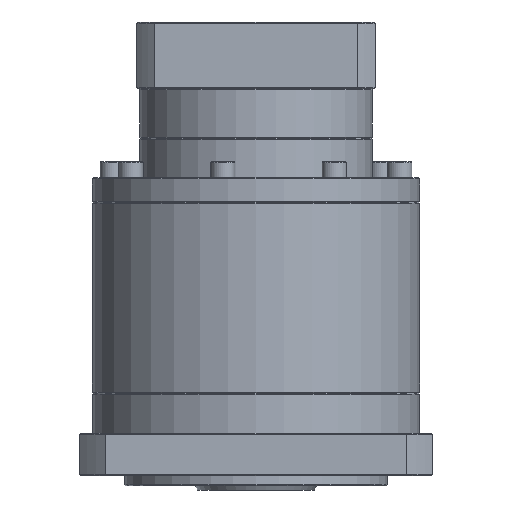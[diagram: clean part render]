
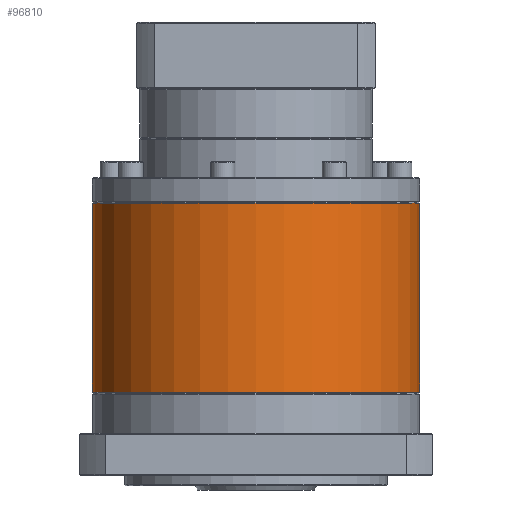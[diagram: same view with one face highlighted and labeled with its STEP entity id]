
A CAD part, front view. The second image highlights one B-rep face of the part: STEP entity #96810.
In plain terms, the highlighted cylindrical face has radius 81 mm (diameter 162 mm), a partial arc.
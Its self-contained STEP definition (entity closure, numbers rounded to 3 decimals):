
#3327 = AXIS2_PLACEMENT_3D ( 'NONE', #63881, #9429, #80364 ) ;
#3477 = DIRECTION ( 'NONE',  ( 0., 0., -1. ) ) ;
#5005 = CIRCLE ( 'NONE', #36801, 81. ) ;
#6527 = AXIS2_PLACEMENT_3D ( 'NONE', #18082, #33921, #10328 ) ;
#9429 = DIRECTION ( 'NONE',  ( 0., 0., 1. ) ) ;
#9594 = CARTESIAN_POINT ( 'NONE',  ( 119.161, 0., 60.3 ) ) ;
#10205 = EDGE_CURVE ( 'NONE', #100083, #48879, #90360, .T. ) ;
#10328 = DIRECTION ( 'NONE',  ( -1., 0., 0. ) ) ;
#12600 = DIRECTION ( 'NONE',  ( 0., 0., -1. ) ) ;
#13323 = EDGE_CURVE ( 'NONE', #27447, #48879, #83431, .T. ) ;
#14468 = LINE ( 'NONE', #51909, #60412 ) ;
#16548 = ORIENTED_EDGE ( 'NONE', *, *, #18589, .T. ) ;
#18082 = CARTESIAN_POINT ( 'NONE',  ( 38.161, 0., 60.3 ) ) ;
#18589 = EDGE_CURVE ( 'NONE', #27447, #54226, #5005, .T. ) ;
#26977 = ORIENTED_EDGE ( 'NONE', *, *, #13323, .F. ) ;
#27447 = VERTEX_POINT ( 'NONE', #79223 ) ;
#33050 = ORIENTED_EDGE ( 'NONE', *, *, #44505, .T. ) ;
#33921 = DIRECTION ( 'NONE',  ( 0., 0., -1. ) ) ;
#36801 = AXIS2_PLACEMENT_3D ( 'NONE', #98783, #12600, #67426 ) ;
#37287 = CARTESIAN_POINT ( 'NONE',  ( -42.839, 0., -33.7 ) ) ;
#42260 = VECTOR ( 'NONE', #3477, 1000. ) ;
#44505 = EDGE_CURVE ( 'NONE', #54226, #100083, #14468, .T. ) ;
#48879 = VERTEX_POINT ( 'NONE', #55103 ) ;
#51909 = CARTESIAN_POINT ( 'NONE',  ( -42.839, 0., 60.3 ) ) ;
#54226 = VERTEX_POINT ( 'NONE', #61154 ) ;
#55103 = CARTESIAN_POINT ( 'NONE',  ( 119.161, 0., -33.7 ) ) ;
#57610 = ORIENTED_EDGE ( 'NONE', *, *, #10205, .T. ) ;
#60412 = VECTOR ( 'NONE', #99525, 1000. ) ;
#61154 = CARTESIAN_POINT ( 'NONE',  ( -42.839, 0., 59.8 ) ) ;
#63881 = CARTESIAN_POINT ( 'NONE',  ( 38.161, 0., -33.7 ) ) ;
#67426 = DIRECTION ( 'NONE',  ( -1., 0., 0. ) ) ;
#72207 = EDGE_LOOP ( 'NONE', ( #26977, #16548, #33050, #57610 ) ) ;
#73912 = FACE_OUTER_BOUND ( 'NONE', #72207, .T. ) ;
#79223 = CARTESIAN_POINT ( 'NONE',  ( 119.161, 0., 59.8 ) ) ;
#80364 = DIRECTION ( 'NONE',  ( -1., 0., 0. ) ) ;
#83431 = LINE ( 'NONE', #9594, #42260 ) ;
#90360 = CIRCLE ( 'NONE', #3327, 81. ) ;
#93207 = CYLINDRICAL_SURFACE ( 'NONE', #6527, 81. ) ;
#96810 = ADVANCED_FACE ( 'NONE', ( #73912 ), #93207, .T. ) ;
#98783 = CARTESIAN_POINT ( 'NONE',  ( 38.161, 0., 59.8 ) ) ;
#99525 = DIRECTION ( 'NONE',  ( 0., 0., -1. ) ) ;
#100083 = VERTEX_POINT ( 'NONE', #37287 ) ;
